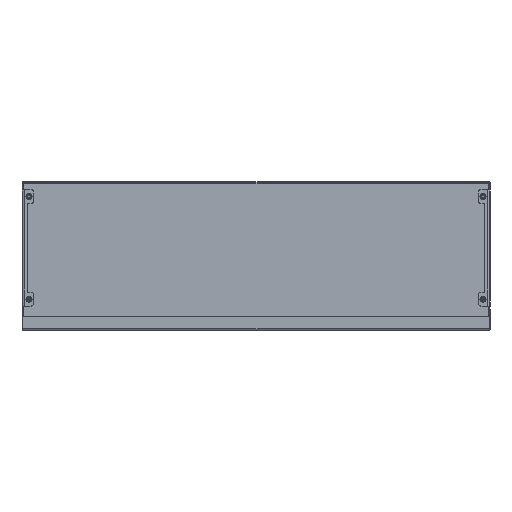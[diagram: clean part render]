
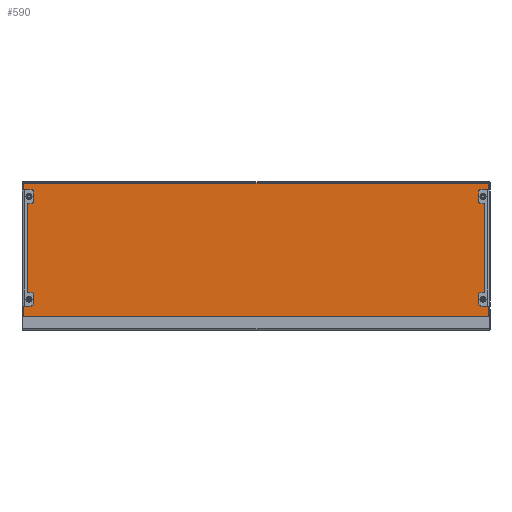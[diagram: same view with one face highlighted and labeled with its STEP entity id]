
A CAD part, front view. The second image highlights one B-rep face of the part: STEP entity #590.
In plain terms, the highlighted planar face has unit normal (0, -1, 0).
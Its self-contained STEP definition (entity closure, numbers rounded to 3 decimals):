
#4 = VERTEX_POINT ( 'NONE', #8320 ) ;
#83 = DIRECTION ( 'NONE',  ( -1., 0., 0. ) ) ;
#194 = AXIS2_PLACEMENT_3D ( 'NONE', #10395, #5304, #2879 ) ;
#267 = VERTEX_POINT ( 'NONE', #1688 ) ;
#462 = DIRECTION ( 'NONE',  ( 0., 1., 0. ) ) ;
#590 = ADVANCED_FACE ( 'NONE', ( #4353 ), #8745, .F. ) ;
#705 = VECTOR ( 'NONE', #1765, 1000. ) ;
#968 = CIRCLE ( 'NONE', #9324, 0.75 ) ;
#1065 = EDGE_CURVE ( 'NONE', #5692, #2414, #968, .T. ) ;
#1107 = CARTESIAN_POINT ( 'NONE',  ( 499.5, -1.5, 142.925 ) ) ;
#1140 = DIRECTION ( 'NONE',  ( 0., 0., 1. ) ) ;
#1152 = LINE ( 'NONE', #3400, #705 ) ;
#1275 = CARTESIAN_POINT ( 'NONE',  ( 502.5, -1.5, 146.5 ) ) ;
#1516 = EDGE_CURVE ( 'NONE', #267, #6679, #8703, .T. ) ;
#1688 = CARTESIAN_POINT ( 'NONE',  ( -498.925, -1.5, 143.5 ) ) ;
#1707 = CARTESIAN_POINT ( 'NONE',  ( 499.524, -1.5, 143.524 ) ) ;
#1765 = DIRECTION ( 'NONE',  ( 0., 0., -1. ) ) ;
#1982 = EDGE_CURVE ( 'NONE', #5133, #2356, #8439, .T. ) ;
#2222 = VERTEX_POINT ( 'NONE', #5129 ) ;
#2292 = CARTESIAN_POINT ( 'NONE',  ( 499.5, -1.5, 0. ) ) ;
#2352 = ORIENTED_EDGE ( 'NONE', *, *, #6316, .F. ) ;
#2356 = VERTEX_POINT ( 'NONE', #6132 ) ;
#2414 = VERTEX_POINT ( 'NONE', #8632 ) ;
#2467 = DIRECTION ( 'NONE',  ( -1., 0., 0. ) ) ;
#2619 = CARTESIAN_POINT ( 'NONE',  ( -499.5, -1.5, -146.757 ) ) ;
#2645 = EDGE_CURVE ( 'NONE', #4, #3120, #3181, .T. ) ;
#2745 = EDGE_CURVE ( 'NONE', #6527, #4288, #5879, .T. ) ;
#2784 = ORIENTED_EDGE ( 'NONE', *, *, #6317, .T. ) ;
#2879 = DIRECTION ( 'NONE',  ( 0., 0., 1. ) ) ;
#2897 = AXIS2_PLACEMENT_3D ( 'NONE', #1707, #9336, #9286 ) ;
#3120 = VERTEX_POINT ( 'NONE', #10139 ) ;
#3181 = LINE ( 'NONE', #2292, #10724 ) ;
#3190 = ORIENTED_EDGE ( 'NONE', *, *, #1065, .F. ) ;
#3400 = CARTESIAN_POINT ( 'NONE',  ( 499.5, -1.5, 143.5 ) ) ;
#3647 = DIRECTION ( 'NONE',  ( 0., -1., 0. ) ) ;
#3766 = CARTESIAN_POINT ( 'NONE',  ( 498.925, -1.5, 143.5 ) ) ;
#4288 = VERTEX_POINT ( 'NONE', #3766 ) ;
#4298 = EDGE_LOOP ( 'NONE', ( #2352, #10068, #7831, #8730, #6430, #8593, #2784, #7091, #4880, #3190, #4627 ) ) ;
#4353 = FACE_OUTER_BOUND ( 'NONE', #4298, .T. ) ;
#4470 = DIRECTION ( 'NONE',  ( 0., 0., -1. ) ) ;
#4542 = LINE ( 'NONE', #7859, #7674 ) ;
#4590 = DIRECTION ( 'NONE',  ( 0.707, 0., 0.707 ) ) ;
#4627 = ORIENTED_EDGE ( 'NONE', *, *, #8418, .F. ) ;
#4777 = VECTOR ( 'NONE', #7888, 1000. ) ;
#4789 = VECTOR ( 'NONE', #83, 1000. ) ;
#4880 = ORIENTED_EDGE ( 'NONE', *, *, #9650, .F. ) ;
#5129 = CARTESIAN_POINT ( 'NONE',  ( -499.3, -1.5, -145.257 ) ) ;
#5133 = VERTEX_POINT ( 'NONE', #9252 ) ;
#5304 = DIRECTION ( 'NONE',  ( 0., 1., 0. ) ) ;
#5590 = DIRECTION ( 'NONE',  ( 0., 0., 1. ) ) ;
#5670 = EDGE_CURVE ( 'NONE', #2356, #3120, #6003, .T. ) ;
#5692 = VERTEX_POINT ( 'NONE', #8650 ) ;
#5704 = CARTESIAN_POINT ( 'NONE',  ( 502.5, -1.5, 143.5 ) ) ;
#5879 = CIRCLE ( 'NONE', #2897, 0.6 ) ;
#6003 = LINE ( 'NONE', #10178, #4777 ) ;
#6059 = LINE ( 'NONE', #2619, #7138 ) ;
#6132 = CARTESIAN_POINT ( 'NONE',  ( 499.1, -1.5, -144.845 ) ) ;
#6316 = EDGE_CURVE ( 'NONE', #4, #2222, #9882, .T. ) ;
#6317 = EDGE_CURVE ( 'NONE', #4288, #267, #8959, .T. ) ;
#6430 = ORIENTED_EDGE ( 'NONE', *, *, #8398, .F. ) ;
#6496 = CARTESIAN_POINT ( 'NONE',  ( -499.63, -1.5, -144.527 ) ) ;
#6527 = VERTEX_POINT ( 'NONE', #1107 ) ;
#6632 = AXIS2_PLACEMENT_3D ( 'NONE', #1275, #462, #7112 ) ;
#6679 = VERTEX_POINT ( 'NONE', #8023 ) ;
#6723 = DIRECTION ( 'NONE',  ( 0., -1., 0. ) ) ;
#7091 = ORIENTED_EDGE ( 'NONE', *, *, #1516, .T. ) ;
#7112 = DIRECTION ( 'NONE',  ( 0., 0., 1. ) ) ;
#7138 = VECTOR ( 'NONE', #1140, 1000. ) ;
#7674 = VECTOR ( 'NONE', #4590, 1000. ) ;
#7738 = VECTOR ( 'NONE', #2467, 1000. ) ;
#7831 = ORIENTED_EDGE ( 'NONE', *, *, #5670, .F. ) ;
#7859 = CARTESIAN_POINT ( 'NONE',  ( -177.021, -1.5, 177.021 ) ) ;
#7888 = DIRECTION ( 'NONE',  ( 0.707, 0., -0.707 ) ) ;
#8023 = CARTESIAN_POINT ( 'NONE',  ( -499.5, -1.5, 142.925 ) ) ;
#8148 = CARTESIAN_POINT ( 'NONE',  ( 502.5, -1.5, -145.257 ) ) ;
#8320 = CARTESIAN_POINT ( 'NONE',  ( 499.5, -1.5, -145.257 ) ) ;
#8398 = EDGE_CURVE ( 'NONE', #6527, #5133, #1152, .T. ) ;
#8418 = EDGE_CURVE ( 'NONE', #2222, #5692, #4542, .T. ) ;
#8439 = CIRCLE ( 'NONE', #9311, 0.6 ) ;
#8505 = CARTESIAN_POINT ( 'NONE',  ( 499.524, -1.5, -144.421 ) ) ;
#8593 = ORIENTED_EDGE ( 'NONE', *, *, #2745, .T. ) ;
#8632 = CARTESIAN_POINT ( 'NONE',  ( -499.5, -1.5, -143.788 ) ) ;
#8650 = CARTESIAN_POINT ( 'NONE',  ( -499.1, -1.5, -145.057 ) ) ;
#8703 = CIRCLE ( 'NONE', #194, 0.6 ) ;
#8730 = ORIENTED_EDGE ( 'NONE', *, *, #1982, .F. ) ;
#8745 = PLANE ( 'NONE',  #6632 ) ;
#8959 = LINE ( 'NONE', #5704, #4789 ) ;
#9252 = CARTESIAN_POINT ( 'NONE',  ( 499.5, -1.5, -143.821 ) ) ;
#9286 = DIRECTION ( 'NONE',  ( 0., 0., 1. ) ) ;
#9311 = AXIS2_PLACEMENT_3D ( 'NONE', #8505, #3647, #4470 ) ;
#9324 = AXIS2_PLACEMENT_3D ( 'NONE', #6496, #6723, #10630 ) ;
#9336 = DIRECTION ( 'NONE',  ( 0., 1., 0. ) ) ;
#9650 = EDGE_CURVE ( 'NONE', #2414, #6679, #6059, .T. ) ;
#9882 = LINE ( 'NONE', #8148, #7738 ) ;
#10068 = ORIENTED_EDGE ( 'NONE', *, *, #2645, .T. ) ;
#10139 = CARTESIAN_POINT ( 'NONE',  ( 499.5, -1.5, -145.245 ) ) ;
#10178 = CARTESIAN_POINT ( 'NONE',  ( 177.127, -1.5, 177.127 ) ) ;
#10395 = CARTESIAN_POINT ( 'NONE',  ( -499.524, -1.5, 143.524 ) ) ;
#10630 = DIRECTION ( 'NONE',  ( 0., 0., -1. ) ) ;
#10724 = VECTOR ( 'NONE', #5590, 1000. ) ;
